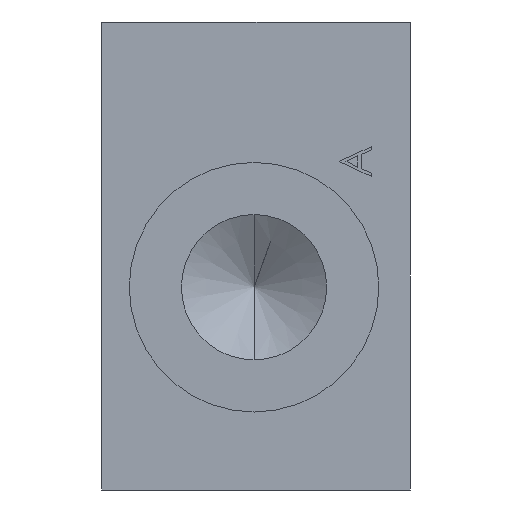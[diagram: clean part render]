
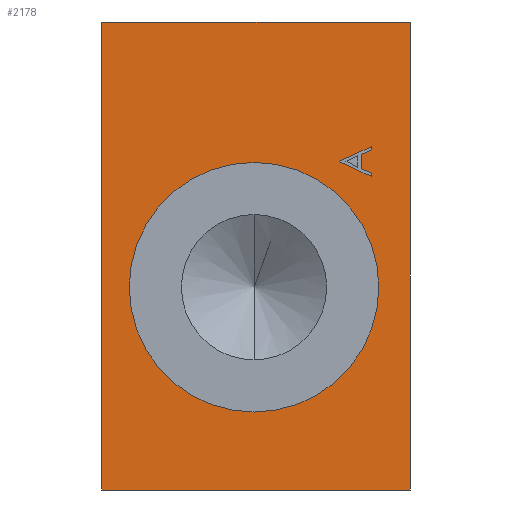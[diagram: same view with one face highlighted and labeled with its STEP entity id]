
A CAD part, left-side view. The second image highlights one B-rep face of the part: STEP entity #2178.
In plain terms, the highlighted planar face has unit normal (-1, 0, 0).
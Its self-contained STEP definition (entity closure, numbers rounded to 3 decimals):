
#13 = CARTESIAN_POINT ( 'NONE',  ( 0., -19.75, 30. ) ) ;
#87 = CARTESIAN_POINT ( 'NONE',  ( 0., -14.75, 14. ) ) ;
#93 = LINE ( 'NONE', #5722, #4971 ) ;
#100 = VECTOR ( 'NONE', #696, 1000. ) ;
#136 = CARTESIAN_POINT ( 'NONE',  ( 0., 19.75, -30. ) ) ;
#346 = LINE ( 'NONE', #4197, #4083 ) ;
#384 = VERTEX_POINT ( 'NONE', #3551 ) ;
#393 = ORIENTED_EDGE ( 'NONE', *, *, #3907, .F. ) ;
#442 = DIRECTION ( 'NONE',  ( -1., 0., 0. ) ) ;
#474 = LINE ( 'NONE', #4263, #1644 ) ;
#487 = CARTESIAN_POINT ( 'NONE',  ( 0., -19.75, -30. ) ) ;
#520 = CARTESIAN_POINT ( 'NONE',  ( 0., 0.25, -20. ) ) ;
#560 = CARTESIAN_POINT ( 'NONE',  ( 0., -14.75, 14. ) ) ;
#617 = DIRECTION ( 'NONE',  ( 0., -0.903, -0.429 ) ) ;
#671 = ORIENTED_EDGE ( 'NONE', *, *, #946, .T. ) ;
#672 = EDGE_LOOP ( 'NONE', ( #3503, #1184 ) ) ;
#688 = ORIENTED_EDGE ( 'NONE', *, *, #4708, .F. ) ;
#696 = DIRECTION ( 'NONE',  ( 0., 0., -1. ) ) ;
#821 = EDGE_CURVE ( 'NONE', #6007, #5934, #4977, .T. ) ;
#838 = CARTESIAN_POINT ( 'NONE',  ( 0., -19.75, 30. ) ) ;
#877 = ORIENTED_EDGE ( 'NONE', *, *, #3412, .T. ) ;
#902 = VERTEX_POINT ( 'NONE', #838 ) ;
#919 = DIRECTION ( 'NONE',  ( 0., 0., 1. ) ) ;
#946 = EDGE_CURVE ( 'NONE', #384, #4883, #474, .T. ) ;
#1035 = FACE_BOUND ( 'NONE', #672, .T. ) ;
#1064 = EDGE_CURVE ( 'NONE', #2410, #2368, #5090, .T. ) ;
#1184 = ORIENTED_EDGE ( 'NONE', *, *, #3872, .F. ) ;
#1210 = VECTOR ( 'NONE', #1687, 1000. ) ;
#1215 = VERTEX_POINT ( 'NONE', #136 ) ;
#1259 = LINE ( 'NONE', #560, #6291 ) ;
#1421 = DIRECTION ( 'NONE',  ( -1., 0., 0. ) ) ;
#1487 = LINE ( 'NONE', #2220, #2642 ) ;
#1494 = EDGE_CURVE ( 'NONE', #1769, #902, #5079, .T. ) ;
#1605 = CARTESIAN_POINT ( 'NONE',  ( 0., 0.25, 12. ) ) ;
#1618 = CARTESIAN_POINT ( 'NONE',  ( 0., -10.75, 12.154 ) ) ;
#1644 = VECTOR ( 'NONE', #5246, 1000. ) ;
#1687 = DIRECTION ( 'NONE',  ( 0., 0.904, 0.429 ) ) ;
#1690 = LINE ( 'NONE', #487, #4259 ) ;
#1730 = AXIS2_PLACEMENT_3D ( 'NONE', #1926, #1421, #919 ) ;
#1769 = VERTEX_POINT ( 'NONE', #5944 ) ;
#1772 = CARTESIAN_POINT ( 'NONE',  ( 0., -10.75, 12.103 ) ) ;
#1926 = CARTESIAN_POINT ( 'NONE',  ( 0., 0.25, -4. ) ) ;
#1956 = DIRECTION ( 'NONE',  ( 0., -1., 0. ) ) ;
#1991 = DIRECTION ( 'NONE',  ( 0., 0., 1. ) ) ;
#2141 = CARTESIAN_POINT ( 'NONE',  ( 0., -14.75, 10.597 ) ) ;
#2178 = ADVANCED_FACE ( 'NONE', ( #3628, #1035, #6079 ), #4003, .T. ) ;
#2209 = AXIS2_PLACEMENT_3D ( 'NONE', #3375, #442, #3856 ) ;
#2220 = CARTESIAN_POINT ( 'NONE',  ( 0., 19.75, 30. ) ) ;
#2257 = VERTEX_POINT ( 'NONE', #6211 ) ;
#2310 = CIRCLE ( 'NONE', #2209, 16. ) ;
#2368 = VERTEX_POINT ( 'NONE', #87 ) ;
#2410 = VERTEX_POINT ( 'NONE', #1618 ) ;
#2459 = DIRECTION ( 'NONE',  ( -1., 0., 0. ) ) ;
#2495 = VERTEX_POINT ( 'NONE', #3155 ) ;
#2514 = LINE ( 'NONE', #5545, #1210 ) ;
#2520 = EDGE_LOOP ( 'NONE', ( #877, #5552, #5667, #5012, #671, #3586, #5786, #3140 ) ) ;
#2622 = EDGE_CURVE ( 'NONE', #5373, #2495, #346, .T. ) ;
#2642 = VECTOR ( 'NONE', #4169, 1000. ) ;
#2663 = VECTOR ( 'NONE', #1956, 1000. ) ;
#2720 = LINE ( 'NONE', #3611, #100 ) ;
#2737 = ORIENTED_EDGE ( 'NONE', *, *, #1494, .F. ) ;
#2887 = LINE ( 'NONE', #1772, #4177 ) ;
#2943 = CARTESIAN_POINT ( 'NONE',  ( 0., 19.75, -30. ) ) ;
#3014 = VECTOR ( 'NONE', #617, 1000. ) ;
#3050 = CARTESIAN_POINT ( 'NONE',  ( 0., -13.468, 11.205 ) ) ;
#3140 = ORIENTED_EDGE ( 'NONE', *, *, #2622, .T. ) ;
#3155 = CARTESIAN_POINT ( 'NONE',  ( 0., -14.75, 10.205 ) ) ;
#3213 = CARTESIAN_POINT ( 'NONE',  ( 0., -13.468, 13.018 ) ) ;
#3375 = CARTESIAN_POINT ( 'NONE',  ( 0., 0.25, -4. ) ) ;
#3412 = EDGE_CURVE ( 'NONE', #2495, #3544, #2514, .T. ) ;
#3488 = EDGE_LOOP ( 'NONE', ( #393, #688, #2737, #5877 ) ) ;
#3503 = ORIENTED_EDGE ( 'NONE', *, *, #821, .F. ) ;
#3544 = VERTEX_POINT ( 'NONE', #4721 ) ;
#3551 = CARTESIAN_POINT ( 'NONE',  ( 0., -14.75, 13.61 ) ) ;
#3586 = ORIENTED_EDGE ( 'NONE', *, *, #4986, .T. ) ;
#3611 = CARTESIAN_POINT ( 'NONE',  ( 0., -19.75, 30. ) ) ;
#3628 = FACE_OUTER_BOUND ( 'NONE', #3488, .T. ) ;
#3787 = VECTOR ( 'NONE', #5608, 1000. ) ;
#3856 = DIRECTION ( 'NONE',  ( 0., 0., 1. ) ) ;
#3872 = EDGE_CURVE ( 'NONE', #5934, #6007, #2310, .T. ) ;
#3907 = EDGE_CURVE ( 'NONE', #2257, #1215, #1690, .T. ) ;
#3934 = VERTEX_POINT ( 'NONE', #4474 ) ;
#4003 = PLANE ( 'NONE',  #4109 ) ;
#4083 = VECTOR ( 'NONE', #5689, 1000. ) ;
#4109 = AXIS2_PLACEMENT_3D ( 'NONE', #2943, #2459, #1991 ) ;
#4169 = DIRECTION ( 'NONE',  ( 0., 0., 1. ) ) ;
#4177 = VECTOR ( 'NONE', #4674, 1000. ) ;
#4181 = EDGE_CURVE ( 'NONE', #3544, #2410, #2887, .T. ) ;
#4197 = CARTESIAN_POINT ( 'NONE',  ( 0., -14.75, 10.597 ) ) ;
#4259 = VECTOR ( 'NONE', #5306, 1000. ) ;
#4263 = CARTESIAN_POINT ( 'NONE',  ( 0., -14.75, 13.61 ) ) ;
#4474 = CARTESIAN_POINT ( 'NONE',  ( 0., -13.468, 11.205 ) ) ;
#4674 = DIRECTION ( 'NONE',  ( 0., 0., 1. ) ) ;
#4708 = EDGE_CURVE ( 'NONE', #902, #2257, #2720, .T. ) ;
#4721 = CARTESIAN_POINT ( 'NONE',  ( 0., -10.75, 12.103 ) ) ;
#4817 = EDGE_CURVE ( 'NONE', #1215, #1769, #1487, .T. ) ;
#4883 = VERTEX_POINT ( 'NONE', #3213 ) ;
#4955 = DIRECTION ( 'NONE',  ( 0., 0., -1. ) ) ;
#4971 = VECTOR ( 'NONE', #5740, 1000. ) ;
#4977 = CIRCLE ( 'NONE', #1730, 16. ) ;
#4986 = EDGE_CURVE ( 'NONE', #4883, #3934, #93, .T. ) ;
#5012 = ORIENTED_EDGE ( 'NONE', *, *, #5940, .T. ) ;
#5079 = LINE ( 'NONE', #13, #2663 ) ;
#5090 = LINE ( 'NONE', #6106, #3787 ) ;
#5246 = DIRECTION ( 'NONE',  ( 0., 0.908, -0.419 ) ) ;
#5306 = DIRECTION ( 'NONE',  ( 0., 1., 0. ) ) ;
#5351 = EDGE_CURVE ( 'NONE', #3934, #5373, #5605, .T. ) ;
#5373 = VERTEX_POINT ( 'NONE', #2141 ) ;
#5545 = CARTESIAN_POINT ( 'NONE',  ( 0., -14.75, 10.205 ) ) ;
#5552 = ORIENTED_EDGE ( 'NONE', *, *, #4181, .T. ) ;
#5605 = LINE ( 'NONE', #3050, #3014 ) ;
#5608 = DIRECTION ( 'NONE',  ( 0., -0.908, 0.419 ) ) ;
#5667 = ORIENTED_EDGE ( 'NONE', *, *, #1064, .T. ) ;
#5689 = DIRECTION ( 'NONE',  ( 0., 0., -1. ) ) ;
#5722 = CARTESIAN_POINT ( 'NONE',  ( 0., -13.468, 13.018 ) ) ;
#5740 = DIRECTION ( 'NONE',  ( 0., 0., -1. ) ) ;
#5786 = ORIENTED_EDGE ( 'NONE', *, *, #5351, .T. ) ;
#5877 = ORIENTED_EDGE ( 'NONE', *, *, #4817, .F. ) ;
#5934 = VERTEX_POINT ( 'NONE', #520 ) ;
#5940 = EDGE_CURVE ( 'NONE', #2368, #384, #1259, .T. ) ;
#5944 = CARTESIAN_POINT ( 'NONE',  ( 0., 19.75, 30. ) ) ;
#6007 = VERTEX_POINT ( 'NONE', #1605 ) ;
#6079 = FACE_BOUND ( 'NONE', #2520, .T. ) ;
#6106 = CARTESIAN_POINT ( 'NONE',  ( 0., -10.75, 12.154 ) ) ;
#6211 = CARTESIAN_POINT ( 'NONE',  ( 0., -19.75, -30. ) ) ;
#6291 = VECTOR ( 'NONE', #4955, 1000. ) ;
